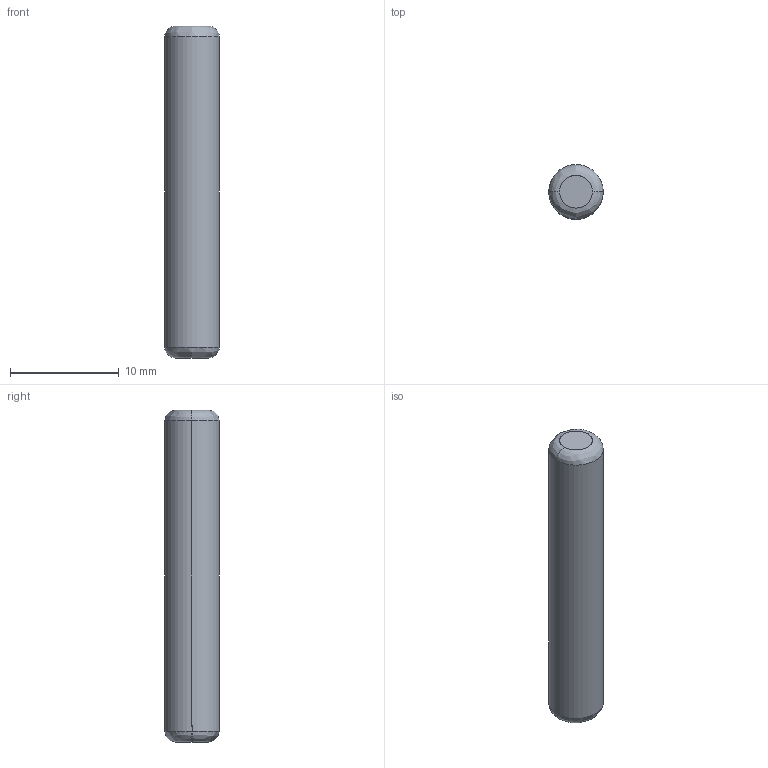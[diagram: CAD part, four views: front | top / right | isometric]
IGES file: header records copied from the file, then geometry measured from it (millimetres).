
Start section: SolidWorks IGES FILE using analytic representation for surfaces
Global section: file name: C:\Documents and Settings\lecoutey\Bureau\GP 29\1076.100.10.IGS; native system: SolidWorks 2004 by SolidWorks Corporation; preprocessor: Version 5.3; author: lecoutey; date: 050329.141705; units: millimetre
Bounding box: 5 x 5 x 30.5 mm (x, y, z)
Surface area: 504 mm2 (no closed solid volume)
Topology: 0 solids, 0 shells, 8 faces, 88 edges, 88 vertices
Faces by surface type: bspline 6, revolution 2
